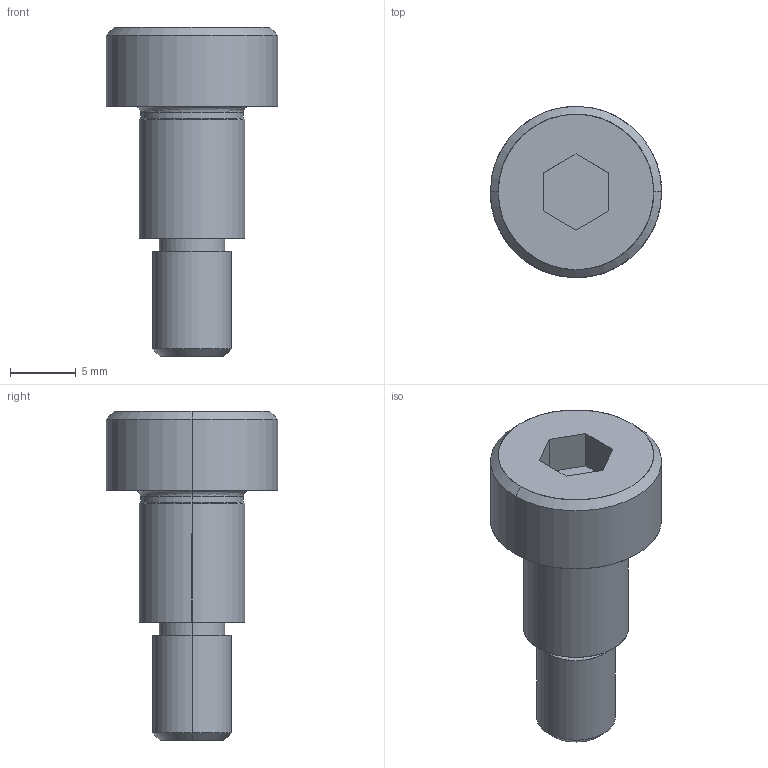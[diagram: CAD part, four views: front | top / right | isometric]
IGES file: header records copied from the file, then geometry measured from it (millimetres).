
Global section: file name: E:\UnigraphicsGraphicData\MISUMI_PRESS-PARTS\IGES\3d_msb8-10_00570_r00.igs; native system: NX V5.0; preprocessor: UGS NX IGES V5.0; author: MISUMI; date: 20110105.161514; units: millimetre
Bounding box: 13 x 13 x 25 mm (x, y, z)
Surface area: 974.7 mm2 (no closed solid volume)
Topology: 0 solids, 0 shells, 30 faces, 172 edges, 172 vertices
Faces by surface type: bspline 30
